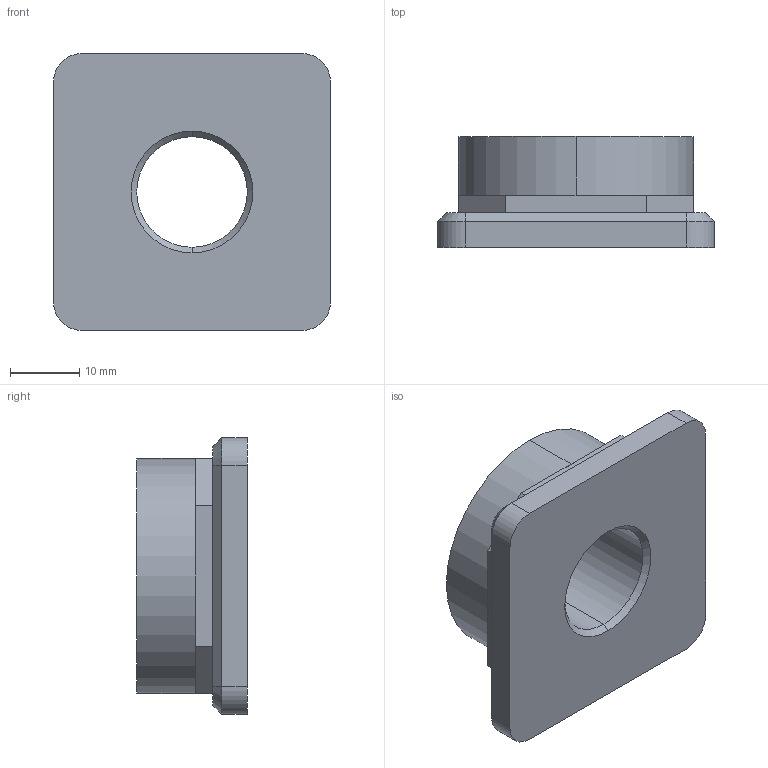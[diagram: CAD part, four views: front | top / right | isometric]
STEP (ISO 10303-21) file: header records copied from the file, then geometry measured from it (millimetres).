
FILE_DESCRIPTION (( 'STEP AP203' ), '1' );
FILE_NAME ('34670.W0042.step', '2017-06-26T08:13:24', ( 'User' ), ( '' ), 'SwSTEP 2.0', 'SolidWorks 2009', '' );
FILE_SCHEMA (( 'CONFIG_CONTROL_DESIGN' ));
Length unit declared in the file: millimetre
Products named in the file (1): 34670.W0042
Bounding box: 40 x 16 x 40 mm (x, y, z)
Volume: 14934 mm3; surface area: 5386 mm2
Topology: 1 solids, 1 shells, 39 faces, 90 edges, 54 vertices
Faces by surface type: plane 23, cone 8, cylinder 8
Entity records: 1167 total; most frequent: DIRECTION 196, CARTESIAN_POINT 184, ORIENTED_EDGE 180, EDGE_CURVE 90, AXIS2_PLACEMENT_3D 66, VECTOR 64, LINE 64, VERTEX_POINT 54
